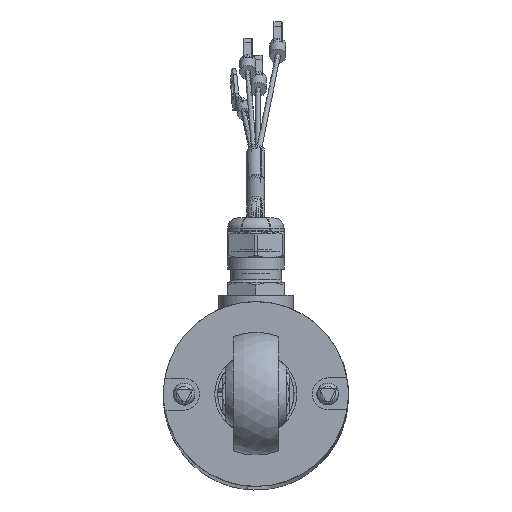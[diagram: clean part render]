
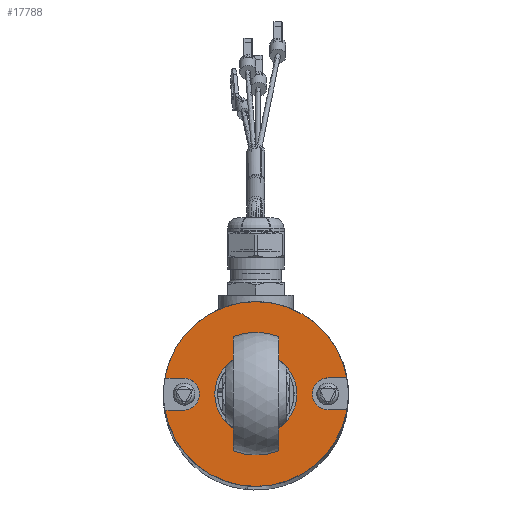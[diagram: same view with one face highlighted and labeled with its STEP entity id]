
A CAD part, top view. The second image highlights one B-rep face of the part: STEP entity #17788.
In plain terms, the highlighted planar face has unit normal (0, 0, 1).
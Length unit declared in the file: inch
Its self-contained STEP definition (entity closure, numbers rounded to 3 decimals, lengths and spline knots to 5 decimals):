
#508=FACE_BOUND('',#2244,.T.);
#631=PLANE('',#19111);
#1182=FACE_OUTER_BOUND('',#2243,.T.);
#2243=EDGE_LOOP('',(#11320,#11321,#11322,#11323,#11324,#11325,#11326,#11327,
#11328));
#2244=EDGE_LOOP('',(#11329));
#3843=CIRCLE('',#19070,0.70866);
#3854=CIRCLE('',#19089,0.70866);
#3856=CIRCLE('',#19091,0.70866);
#3862=CIRCLE('',#19102,0.12303);
#3864=CIRCLE('',#19106,0.12303);
#3866=CIRCLE('',#19112,0.15945);
#4669=LINE('',#25665,#5820);
#4672=LINE('',#25671,#5823);
#4677=LINE('',#25689,#5828);
#4679=LINE('',#25692,#5830);
#5820=VECTOR('',#20934,0.3937);
#5823=VECTOR('',#20939,0.3937);
#5828=VECTOR('',#20960,0.3937);
#5830=VECTOR('',#20964,0.3937);
#6956=VERTEX_POINT('',#25571);
#6957=VERTEX_POINT('',#25573);
#6972=VERTEX_POINT('',#25638);
#6975=VERTEX_POINT('',#25644);
#6976=VERTEX_POINT('',#25646);
#6982=VERTEX_POINT('',#25664);
#6984=VERTEX_POINT('',#25670);
#6986=VERTEX_POINT('',#25680);
#6987=VERTEX_POINT('',#25681);
#6990=VERTEX_POINT('',#25696);
#8627=EDGE_CURVE('',#6957,#6956,#3843,.T.);
#8651=EDGE_CURVE('',#6972,#6957,#3854,.T.);
#8655=EDGE_CURVE('',#6976,#6975,#3856,.T.);
#8664=EDGE_CURVE('',#6982,#6976,#4669,.T.);
#8667=EDGE_CURVE('',#6956,#6984,#4672,.T.);
#8670=EDGE_CURVE('',#6984,#6982,#3862,.T.);
#8672=EDGE_CURVE('',#6986,#6987,#3864,.T.);
#8676=EDGE_CURVE('',#6987,#6972,#4677,.T.);
#8678=EDGE_CURVE('',#6975,#6986,#4679,.T.);
#8680=EDGE_CURVE('',#6990,#6990,#3866,.T.);
#11320=ORIENTED_EDGE('',*,*,#8667,.T.);
#11321=ORIENTED_EDGE('',*,*,#8670,.T.);
#11322=ORIENTED_EDGE('',*,*,#8664,.T.);
#11323=ORIENTED_EDGE('',*,*,#8655,.T.);
#11324=ORIENTED_EDGE('',*,*,#8678,.T.);
#11325=ORIENTED_EDGE('',*,*,#8672,.T.);
#11326=ORIENTED_EDGE('',*,*,#8676,.T.);
#11327=ORIENTED_EDGE('',*,*,#8651,.T.);
#11328=ORIENTED_EDGE('',*,*,#8627,.T.);
#11329=ORIENTED_EDGE('',*,*,#8680,.T.);
#17788=ADVANCED_FACE('',(#1182,#508),#631,.T.);
#19070=AXIS2_PLACEMENT_3D('',#25574,#20858,#20859);
#19089=AXIS2_PLACEMENT_3D('',#25639,#20907,#20908);
#19091=AXIS2_PLACEMENT_3D('',#25647,#20913,#20914);
#19102=AXIS2_PLACEMENT_3D('',#25676,#20944,#20945);
#19106=AXIS2_PLACEMENT_3D('',#25682,#20952,#20953);
#19111=AXIS2_PLACEMENT_3D('',#25695,#20968,#20969);
#19112=AXIS2_PLACEMENT_3D('',#25697,#20970,#20971);
#20858=DIRECTION('center_axis',(0.,0.,1.));
#20859=DIRECTION('ref_axis',(1.,0.,0.));
#20907=DIRECTION('center_axis',(0.,0.,1.));
#20908=DIRECTION('ref_axis',(1.,0.,0.));
#20913=DIRECTION('center_axis',(0.,0.,1.));
#20914=DIRECTION('ref_axis',(1.,0.,0.));
#20934=DIRECTION('',(-1.,-0.001,0.));
#20939=DIRECTION('',(1.,0.001,0.));
#20944=DIRECTION('center_axis',(0.,0.,-1.));
#20945=DIRECTION('ref_axis',(-0.001,1.,0.));
#20952=DIRECTION('center_axis',(0.,0.,-1.));
#20953=DIRECTION('ref_axis',(0.001,-1.,0.));
#20960=DIRECTION('',(1.,0.001,0.));
#20964=DIRECTION('',(-1.,-0.001,0.));
#20968=DIRECTION('center_axis',(0.,0.,1.));
#20969=DIRECTION('ref_axis',(1.,0.,0.));
#20970=DIRECTION('center_axis',(0.,0.,-1.));
#20971=DIRECTION('ref_axis',(1.,0.,0.));
#25571=CARTESIAN_POINT('',(-0.69806,0.12214,0.59055));
#25573=CARTESIAN_POINT('',(0.,0.70866,0.59055));
#25574=CARTESIAN_POINT('Origin',(0.,0.,0.59055));
#25638=CARTESIAN_POINT('',(0.69774,0.12392,0.59055));
#25639=CARTESIAN_POINT('Origin',(0.,0.,0.59055));
#25644=CARTESIAN_POINT('',(0.69806,-0.12214,0.59055));
#25646=CARTESIAN_POINT('',(-0.69774,-0.12392,0.59055));
#25647=CARTESIAN_POINT('Origin',(0.,0.,0.59055));
#25664=CARTESIAN_POINT('',(-0.55595,-0.12374,0.59055));
#25665=CARTESIAN_POINT('',(-0.34879,-0.12348,0.59055));
#25670=CARTESIAN_POINT('',(-0.55626,0.12232,0.59055));
#25671=CARTESIAN_POINT('',(-0.27821,0.12268,0.59055));
#25676=CARTESIAN_POINT('Origin',(-0.5561,-0.00071,
0.59055));
#25680=CARTESIAN_POINT('',(0.55626,-0.12232,0.59055));
#25681=CARTESIAN_POINT('',(0.55595,0.12374,0.59055));
#25682=CARTESIAN_POINT('Origin',(0.5561,0.00071,
0.59055));
#25689=CARTESIAN_POINT('',(0.34879,0.12348,0.59055));
#25692=CARTESIAN_POINT('',(0.27821,-0.12268,0.59055));
#25695=CARTESIAN_POINT('Origin',(0.,0.,0.59055));
#25696=CARTESIAN_POINT('',(-0.15945,0.,0.59055));
#25697=CARTESIAN_POINT('Origin',(0.,0.,0.59055));
